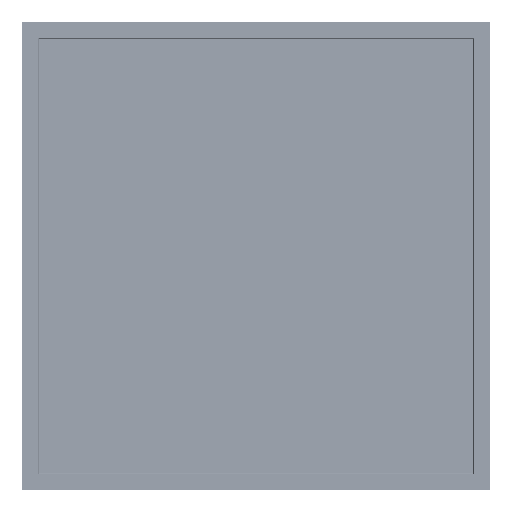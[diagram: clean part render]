
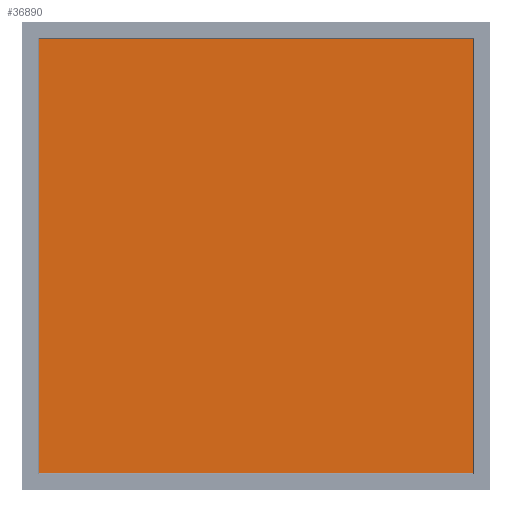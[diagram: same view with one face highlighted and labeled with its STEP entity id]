
A CAD part, front view. The second image highlights one B-rep face of the part: STEP entity #36890.
In plain terms, the highlighted planar face has unit normal (0, -1, 0).
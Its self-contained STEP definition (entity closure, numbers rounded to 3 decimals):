
#36500=CARTESIAN_POINT('',(0.,0.,0.));
#36510=DIRECTION('',(-0.,1.,0.));
#36520=DIRECTION('',(1.,0.,0.));
#36530=AXIS2_PLACEMENT_3D('',#36500,#36510,#36520);
#36540=PLANE('',#36530);
#36550=CARTESIAN_POINT('',(286.,0.,286.));
#36560=DIRECTION('',(-1.,0.,0.));
#36570=VECTOR('',#36560,1.);
#36580=LINE('',#36550,#36570);
#36590=CARTESIAN_POINT('',(286.,0.,286.));
#36600=VERTEX_POINT('',#36590);
#36610=CARTESIAN_POINT('',(-286.,0.,286.));
#36620=VERTEX_POINT('',#36610);
#36630=EDGE_CURVE('',#36600,#36620,#36580,.T.);
#36640=ORIENTED_EDGE('',*,*,#36630,.T.);
#36650=CARTESIAN_POINT('',(286.,0.,-286.));
#36660=DIRECTION('',(0.,0.,1.));
#36670=VECTOR('',#36660,1.);
#36680=LINE('',#36650,#36670);
#36690=CARTESIAN_POINT('',(286.,0.,-286.));
#36700=VERTEX_POINT('',#36690);
#36710=EDGE_CURVE('',#36700,#36600,#36680,.T.);
#36720=ORIENTED_EDGE('',*,*,#36710,.T.);
#36730=CARTESIAN_POINT('',(-286.,0.,-286.));
#36740=DIRECTION('',(1.,0.,0.));
#36750=VECTOR('',#36740,1.);
#36760=LINE('',#36730,#36750);
#36770=CARTESIAN_POINT('',(-286.,0.,-286.));
#36780=VERTEX_POINT('',#36770);
#36790=EDGE_CURVE('',#36780,#36700,#36760,.T.);
#36800=ORIENTED_EDGE('',*,*,#36790,.T.);
#36810=CARTESIAN_POINT('',(-286.,0.,286.));
#36820=DIRECTION('',(0.,0.,-1.));
#36830=VECTOR('',#36820,1.);
#36840=LINE('',#36810,#36830);
#36850=EDGE_CURVE('',#36620,#36780,#36840,.T.);
#36860=ORIENTED_EDGE('',*,*,#36850,.T.);
#36870=EDGE_LOOP('',(#36860,#36800,#36720,#36640));
#36880=FACE_OUTER_BOUND('',#36870,.T.);
#36890=ADVANCED_FACE('',(#36880),#36540,.F.);
